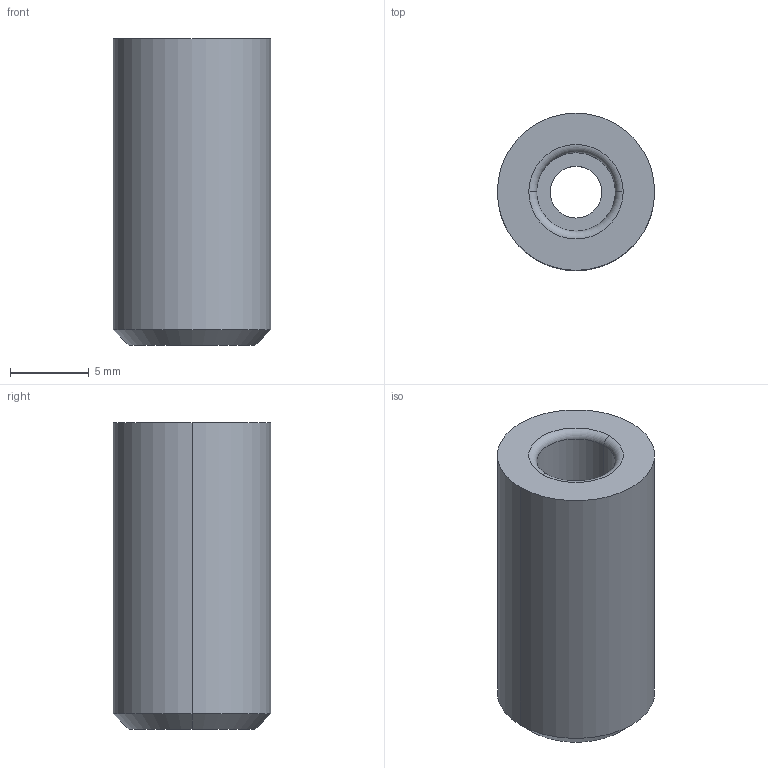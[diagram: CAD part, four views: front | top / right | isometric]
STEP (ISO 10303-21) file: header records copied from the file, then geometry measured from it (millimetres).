
FILE_DESCRIPTION (( 'STEP AP214' ), '1' );
FILE_NAME ('TPNFB10-13.step', '2024-04-30T19:35:34', ( '' ), ( '' ), 'SwSTEP 2.0', 'SolidWorks 2017', '' );
FILE_SCHEMA (( 'AUTOMOTIVE_DESIGN' ));
Length unit declared in the file: millimetre
Products named in the file (1): TPNFB10-13
Bounding box: 10 x 10 x 19.5 mm (x, y, z)
Volume: 1005.6 mm3; surface area: 1093.1 mm2
Topology: 1 solids, 1 shells, 19 faces, 38 edges, 22 vertices
Faces by surface type: cylinder 8, torus 6, plane 3, cone 2
Entity records: 560 total; most frequent: DIRECTION 106, CARTESIAN_POINT 80, ORIENTED_EDGE 76, AXIS2_PLACEMENT_3D 48, EDGE_CURVE 38, CIRCLE 28, EDGE_LOOP 22, VERTEX_POINT 22
